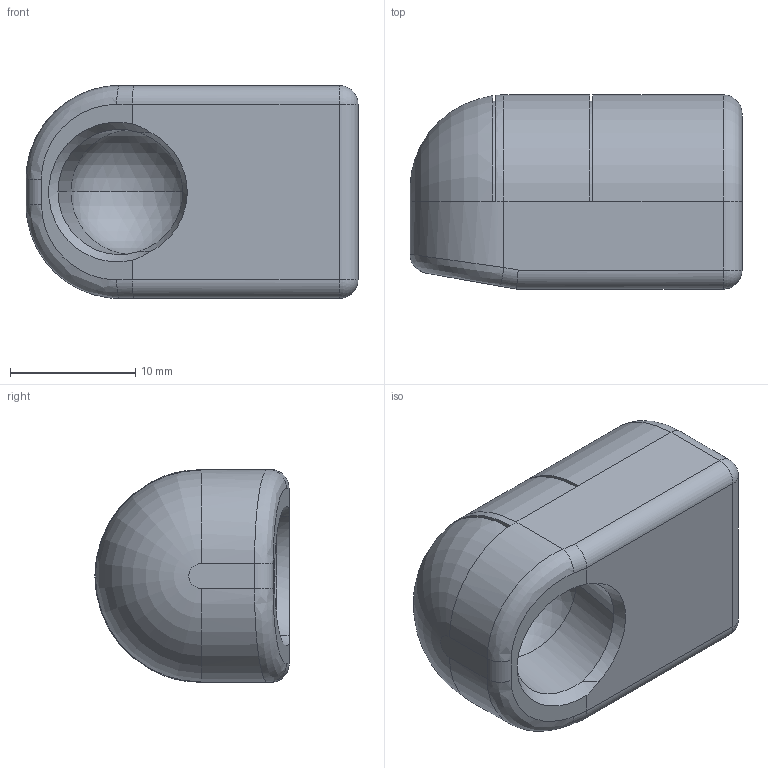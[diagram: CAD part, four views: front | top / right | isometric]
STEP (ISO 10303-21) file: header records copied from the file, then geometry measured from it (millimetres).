
FILE_DESCRIPTION (( 'STEP AP214' ), '1' );
FILE_NAME ('13.C10M6L18KNST.STEP', '2017-12-21T08:55:54', ( '' ), ( '' ), 'SwSTEP 2.0', 'SolidWorks 2017', '' );
FILE_SCHEMA (( 'AUTOMOTIVE_DESIGN' ));
Length unit declared in the file: millimetre
Products named in the file (1): 13.C10M6L18KNST
Bounding box: 26.5 x 15.5 x 17 mm (x, y, z)
Volume: 4582.8 mm3; surface area: 2209 mm2
Topology: 1 solids, 1 shells, 47 faces, 112 edges, 62 vertices
Faces by surface type: cylinder 18, plane 14, cone 5, sphere 4, torus 3, bspline 3
Entity records: 1621 total; most frequent: CARTESIAN_POINT 501, DIRECTION 224, ORIENTED_EDGE 208, EDGE_CURVE 104, AXIS2_PLACEMENT_3D 88, VERTEX_POINT 60, VECTOR 48, LINE 48
